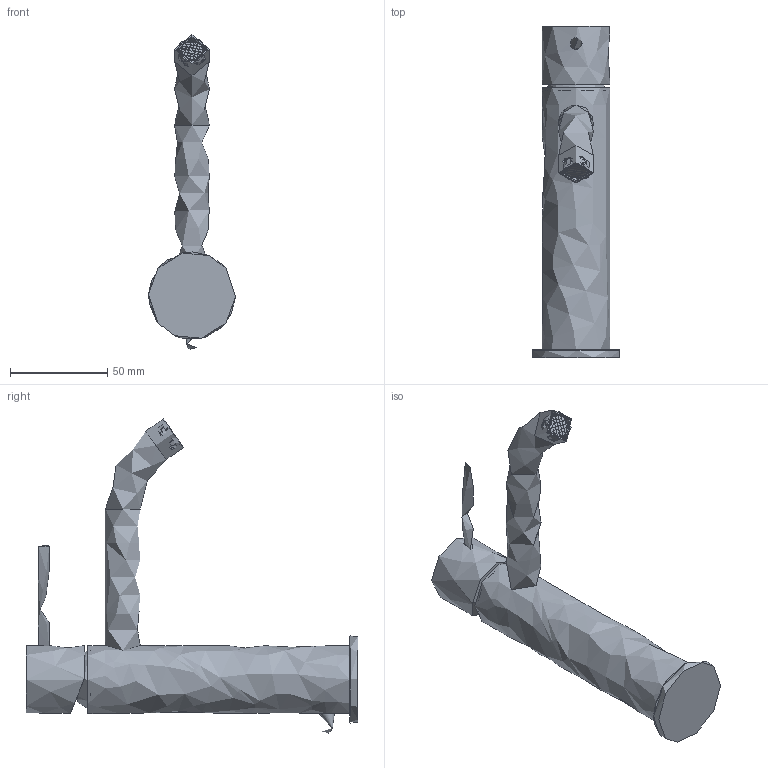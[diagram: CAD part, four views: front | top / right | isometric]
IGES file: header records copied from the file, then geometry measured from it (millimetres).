
Global section: file name: PR52AA101; native system: Autodesk Inventor 2017; preprocessor: unknown; author: PIZZERA; date: 20210407.114843; units: millimetre
Bounding box: 44.99 x 170.7 x 161.82 mm (x, y, z)
Volume: 197544 mm3; surface area: 31846.6 mm2
Topology: 2 solids, 2 shells, 671 faces, 1670 edges, 1007 vertices
Faces by surface type: bspline 671
